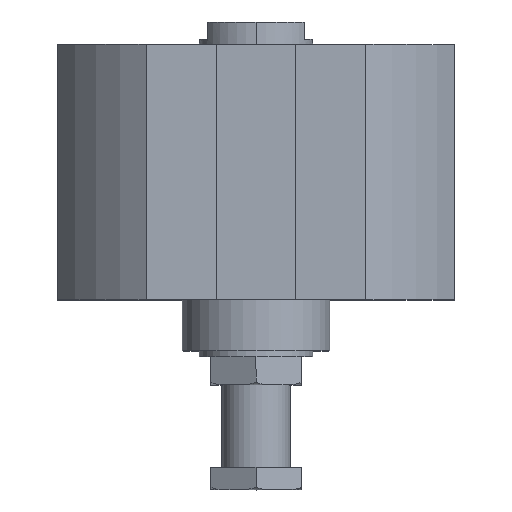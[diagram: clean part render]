
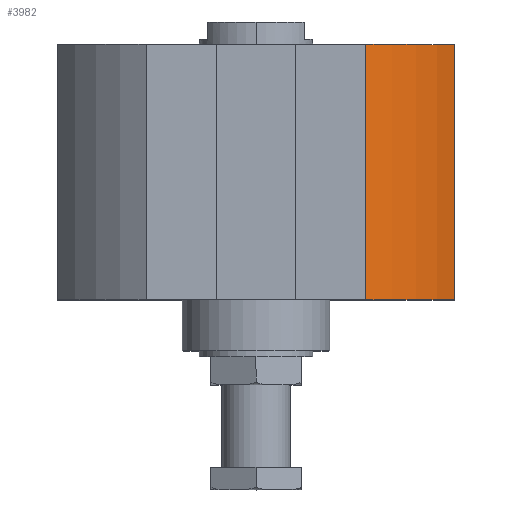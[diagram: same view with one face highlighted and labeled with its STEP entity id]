
A CAD part, top view. The second image highlights one B-rep face of the part: STEP entity #3982.
In plain terms, the highlighted cylindrical face has radius 40 mm (diameter 80 mm), a partial arc.
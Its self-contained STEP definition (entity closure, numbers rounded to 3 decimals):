
#15 = AXIS2_PLACEMENT_3D ( 'NONE', #3950, #4640, #953 ) ;
#136 = DIRECTION ( 'NONE',  ( 0., 1., 0. ) ) ;
#380 = LINE ( 'NONE', #4295, #4336 ) ;
#558 = CARTESIAN_POINT ( 'NONE',  ( 19.365, -45., 35. ) ) ;
#653 = DIRECTION ( 'NONE',  ( 0., 1., 0. ) ) ;
#668 = DIRECTION ( 'NONE',  ( 0., 1., 0. ) ) ;
#690 = VERTEX_POINT ( 'NONE', #2973 ) ;
#793 = EDGE_CURVE ( 'NONE', #1802, #3038, #2699, .T. ) ;
#953 = DIRECTION ( 'NONE',  ( 0., 0., 1. ) ) ;
#1107 = EDGE_LOOP ( 'NONE', ( #2894, #1303, #1427, #3833 ) ) ;
#1303 = ORIENTED_EDGE ( 'NONE', *, *, #3329, .F. ) ;
#1427 = ORIENTED_EDGE ( 'NONE', *, *, #2032, .T. ) ;
#1525 = DIRECTION ( 'NONE',  ( 0., 1., 0. ) ) ;
#1744 = CARTESIAN_POINT ( 'NONE',  ( 19.365, 0., 35. ) ) ;
#1745 = VERTEX_POINT ( 'NONE', #558 ) ;
#1802 = VERTEX_POINT ( 'NONE', #1744 ) ;
#2032 = EDGE_CURVE ( 'NONE', #1745, #690, #4186, .T. ) ;
#2138 = AXIS2_PLACEMENT_3D ( 'NONE', #4478, #1525, #4854 ) ;
#2181 = FACE_OUTER_BOUND ( 'NONE', #1107, .T. ) ;
#2586 = CARTESIAN_POINT ( 'NONE',  ( 0., -45., 0. ) ) ;
#2604 = EDGE_CURVE ( 'NONE', #690, #3038, #3257, .T. ) ;
#2699 = CIRCLE ( 'NONE', #2138, 40. ) ;
#2847 = VECTOR ( 'NONE', #668, 1000. ) ;
#2894 = ORIENTED_EDGE ( 'NONE', *, *, #793, .F. ) ;
#2945 = CARTESIAN_POINT ( 'NONE',  ( 35., 0., 19.365 ) ) ;
#2973 = CARTESIAN_POINT ( 'NONE',  ( 35., -45., 19.365 ) ) ;
#3038 = VERTEX_POINT ( 'NONE', #2945 ) ;
#3257 = LINE ( 'NONE', #4050, #2847 ) ;
#3329 = EDGE_CURVE ( 'NONE', #1745, #1802, #380, .T. ) ;
#3833 = ORIENTED_EDGE ( 'NONE', *, *, #2604, .T. ) ;
#3950 = CARTESIAN_POINT ( 'NONE',  ( 0., -45., 0. ) ) ;
#3982 = ADVANCED_FACE ( 'NONE', ( #2181 ), #4455, .T. ) ;
#4050 = CARTESIAN_POINT ( 'NONE',  ( 35., -45., 19.365 ) ) ;
#4186 = CIRCLE ( 'NONE', #4571, 40. ) ;
#4295 = CARTESIAN_POINT ( 'NONE',  ( 19.365, -45., 35. ) ) ;
#4336 = VECTOR ( 'NONE', #136, 1000. ) ;
#4446 = DIRECTION ( 'NONE',  ( 0., 0., 1. ) ) ;
#4455 = CYLINDRICAL_SURFACE ( 'NONE', #15, 40. ) ;
#4478 = CARTESIAN_POINT ( 'NONE',  ( 0., 0., 0. ) ) ;
#4571 = AXIS2_PLACEMENT_3D ( 'NONE', #2586, #653, #4446 ) ;
#4640 = DIRECTION ( 'NONE',  ( 0., 1., 0. ) ) ;
#4854 = DIRECTION ( 'NONE',  ( 0., 0., 1. ) ) ;
